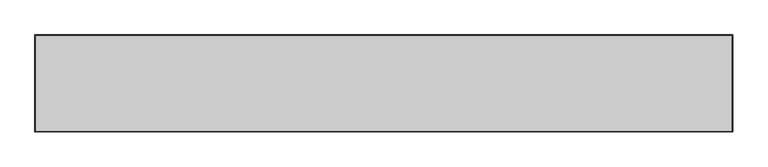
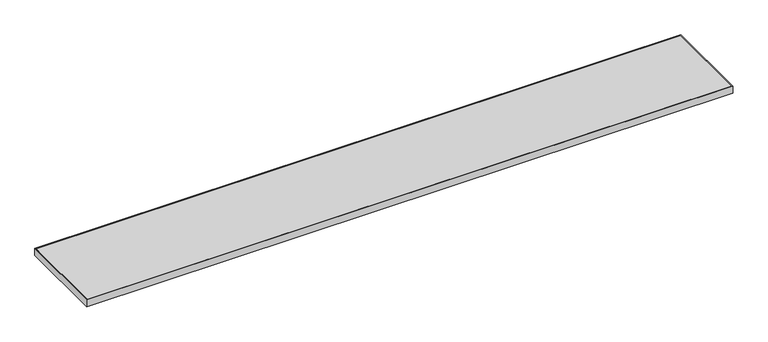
"""IFC4 building model written with IfcOpenShell, lengths in millimetres: furniture geometry, Steelcase - Universal Storage - Square Edge Top - Flush Front - Laminate : Common Top - 15D x 108W."""

from ifc_helpers import new_model, si_unit, frame, origin, place, context, project, spatial, polyline, outline, extrude, source, transform, mapped, element, save


def furniture_4d309845(model_context):
    return source(origin(), model_context, "Body", "SweptSolid", [
        extrude(outline(polyline([(2740.1520001, -3.0479999), (2740.1520001, -377.9520001), (3.0479999, -377.9520001), (3.0479999, -3.0479999), (2740.1520001, -3.0479999)])), frame((0.0, 0.0, 680.72), z_axis=(0.0, 0.0, 1.0), x_axis=(1.0, 0.0, 0.0)), (0.0, 0.0, 1.0), 30.48),
        extrude(outline(polyline([(2743.2, 0.0), (2743.2, -381.0), (0.0, -381.0), (0.0, 0.0), (2743.2, 0.0)]), holes=[polyline([(2740.1520001, -3.0479999), (3.0479999, -3.0479999), (3.0479999, -377.9520001), (2740.1520001, -377.9520001), (2740.1520001, -3.0479999)])]), frame((0.0, 0.0, 680.72), z_axis=(0.0, 0.0, 1.0), x_axis=(1.0, 0.0, 0.0)), (0.0, 0.0, 1.0), 30.48),
    ])


if __name__ == "__main__":
    model = new_model("IFC4")
    model_context = context("Model", 3, world=origin())
    ifc_project = project(units=[si_unit("LENGTHUNIT", "METRE", prefix="MILLI")], contexts=[model_context])
    site = spatial("IfcSite", under=ifc_project)
    building = spatial("IfcBuilding", under=site)
    placement = place(None, origin())
    furniture_shape = furniture_4d309845(model_context)
    element("IfcFurniture", 1, ObjectType="Steelcase - Universal Storage - Square Edge Top - Flush Front - Laminate : Common Top - 15D x 108W", at=placement, inside=building, context=model_context, shape_type="MappedRepresentation", body=[
        mapped(furniture_shape, transform((0.0, 0.0, 0.0), x_axis=(1.0, 0.0, 0.0), y_axis=(0.0, 1.0, 0.0), z_axis=(0.0, 0.0, 1.0))),
    ])
    save(model, "model.ifc")
